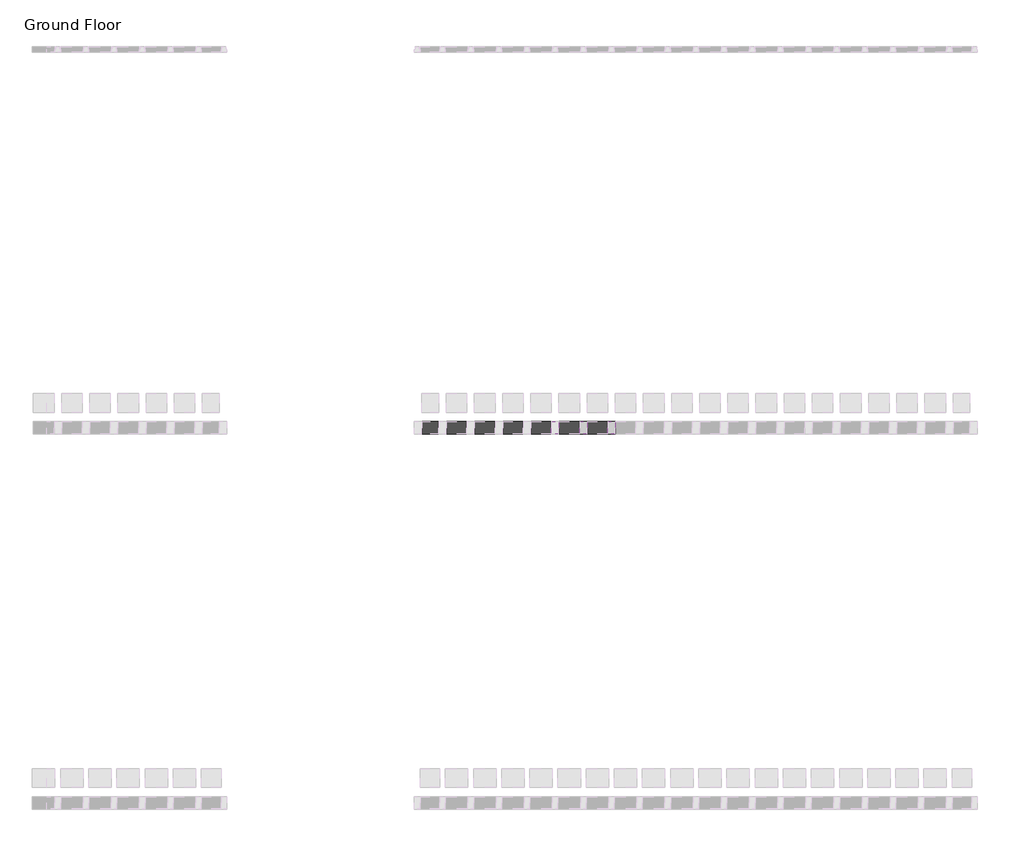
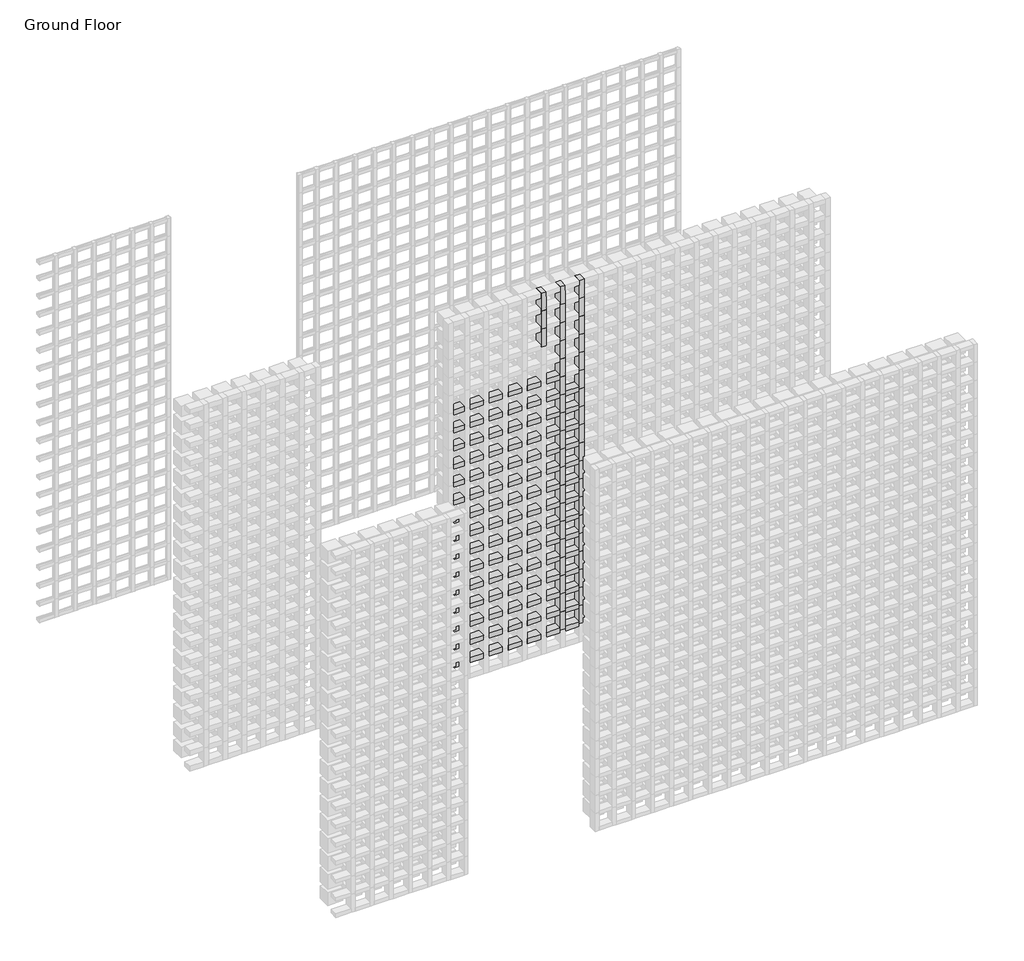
# One storey, part 96 of 350: 145 members.
"""IFC4 building model written with IfcOpenShell, lengths in millimetres."""

from ifc_helpers import new_model, si_unit, origin, place, context, project, spatial, transform, mapped, element, save
from components import rectangular_mullion_d93f5598, rectangular_mullion_655930e9, rectangular_mullion_0b6a8654

model = new_model("IFC4")

# Units and contexts
model_context = context("Model", 3, world=origin())
ifc_project = project(units=[si_unit("LENGTHUNIT", "METRE", prefix="MILLI")], contexts=[model_context])

# Site, building, storey
site = spatial("IfcSite", under=ifc_project)
building = spatial("IfcBuilding", under=site)
storey = spatial("IfcBuildingStorey", under=building, Name="Ground Floor", Elevation=0.0)

# Members
placement = place(None, origin())
rectangular_mullion_shape = rectangular_mullion_d93f5598(model_context)
element("IfcMember", 1, ObjectType="Rectangular Mullion : Batten_Timber_Modinex_Austratus_Grid_Fascia_40x65_Blackbutt", at=placement, inside=storey, context=model_context, shape_type="MappedRepresentation", body=[
    mapped(rectangular_mullion_shape, transform((6196.4361642, 40968.2978302, 150.0), x_axis=(0.0, 0.0, 1.0), y_axis=(0.0, -1.0, 0.0), z_axis=(1.0, 0.0, 0.0))),
])
element("IfcMember", 2, ObjectType="Rectangular Mullion : Batten_Timber_Modinex_Austratus_Grid_Fascia_40x65_Blackbutt", at=placement, inside=storey, context=model_context, shape_type="MappedRepresentation", body=[
    mapped(rectangular_mullion_shape, transform((6346.4361642, 40968.2978302, 150.0), x_axis=(0.0, 0.0, 1.0), y_axis=(0.0, -1.0, 0.0), z_axis=(1.0, 0.0, 0.0))),
])
element("IfcMember", 3, ObjectType="Rectangular Mullion : Batten_Timber_Modinex_Austratus_Grid_Fascia_40x65_Blackbutt", at=placement, inside=storey, context=model_context, shape_type="MappedRepresentation", body=[
    mapped(rectangular_mullion_shape, transform((6496.4361642, 40968.2978302, 150.0), x_axis=(0.0, 0.0, 1.0), y_axis=(0.0, -1.0, 0.0), z_axis=(1.0, 0.0, 0.0))),
])
element("IfcMember", 4, ObjectType="Rectangular Mullion : Batten_Timber_Modinex_Austratus_Grid_Fascia_40x65_Blackbutt", at=placement, inside=storey, context=model_context, shape_type="MappedRepresentation", body=[
    mapped(rectangular_mullion_shape, transform((6646.4361642, 40968.2978302, 150.0), x_axis=(0.0, 0.0, 1.0), y_axis=(0.0, -1.0, 0.0), z_axis=(1.0, 0.0, 0.0))),
])
element("IfcMember", 5, ObjectType="Rectangular Mullion : Batten_Timber_Modinex_Austratus_Grid_Fascia_40x65_Blackbutt", at=placement, inside=storey, context=model_context, shape_type="MappedRepresentation", body=[
    mapped(rectangular_mullion_shape, transform((6796.4361642, 40968.2978302, 150.0), x_axis=(0.0, 0.0, 1.0), y_axis=(0.0, -1.0, 0.0), z_axis=(1.0, 0.0, 0.0))),
])
element("IfcMember", 6, ObjectType="Rectangular Mullion : Batten_Timber_Modinex_Austratus_Grid_Fascia_40x65_Blackbutt", at=placement, inside=storey, context=model_context, shape_type="MappedRepresentation", body=[
    mapped(rectangular_mullion_shape, transform((6946.4361642, 40968.2978302, 150.0), x_axis=(0.0, 0.0, 1.0), y_axis=(0.0, -1.0, 0.0), z_axis=(1.0, 0.0, 0.0))),
])
element("IfcMember", 7, ObjectType="Rectangular Mullion : Batten_Timber_Modinex_Austratus_Grid_Fascia_40x65_Blackbutt", at=placement, inside=storey, context=model_context, shape_type="MappedRepresentation", body=[
    mapped(rectangular_mullion_shape, transform((6196.4361642, 40968.2978302, 300.0), x_axis=(0.0, 0.0, 1.0), y_axis=(0.0, -1.0, 0.0), z_axis=(1.0, 0.0, 0.0))),
])
element("IfcMember", 8, ObjectType="Rectangular Mullion : Batten_Timber_Modinex_Austratus_Grid_Fascia_40x65_Blackbutt", at=placement, inside=storey, context=model_context, shape_type="MappedRepresentation", body=[
    mapped(rectangular_mullion_shape, transform((6346.4361642, 40968.2978302, 300.0), x_axis=(0.0, 0.0, 1.0), y_axis=(0.0, -1.0, 0.0), z_axis=(1.0, 0.0, 0.0))),
])
element("IfcMember", 9, ObjectType="Rectangular Mullion : Batten_Timber_Modinex_Austratus_Grid_Fascia_40x65_Blackbutt", at=placement, inside=storey, context=model_context, shape_type="MappedRepresentation", body=[
    mapped(rectangular_mullion_shape, transform((6496.4361642, 40968.2978302, 300.0), x_axis=(0.0, 0.0, 1.0), y_axis=(0.0, -1.0, 0.0), z_axis=(1.0, 0.0, 0.0))),
])
element("IfcMember", 10, ObjectType="Rectangular Mullion : Batten_Timber_Modinex_Austratus_Grid_Fascia_40x65_Blackbutt", at=placement, inside=storey, context=model_context, shape_type="MappedRepresentation", body=[
    mapped(rectangular_mullion_shape, transform((6646.4361642, 40968.2978302, 300.0), x_axis=(0.0, 0.0, 1.0), y_axis=(0.0, -1.0, 0.0), z_axis=(1.0, 0.0, 0.0))),
])
element("IfcMember", 11, ObjectType="Rectangular Mullion : Batten_Timber_Modinex_Austratus_Grid_Fascia_40x65_Blackbutt", at=placement, inside=storey, context=model_context, shape_type="MappedRepresentation", body=[
    mapped(rectangular_mullion_shape, transform((6796.4361642, 40968.2978302, 300.0), x_axis=(0.0, 0.0, 1.0), y_axis=(0.0, -1.0, 0.0), z_axis=(1.0, 0.0, 0.0))),
])
element("IfcMember", 12, ObjectType="Rectangular Mullion : Batten_Timber_Modinex_Austratus_Grid_Fascia_40x65_Blackbutt", at=placement, inside=storey, context=model_context, shape_type="MappedRepresentation", body=[
    mapped(rectangular_mullion_shape, transform((6946.4361642, 40968.2978302, 300.0), x_axis=(0.0, 0.0, 1.0), y_axis=(0.0, -1.0, 0.0), z_axis=(1.0, 0.0, 0.0))),
])
element("IfcMember", 13, ObjectType="Rectangular Mullion : Batten_Timber_Modinex_Austratus_Grid_Fascia_40x65_Blackbutt", at=placement, inside=storey, context=model_context, shape_type="MappedRepresentation", body=[
    mapped(rectangular_mullion_shape, transform((6196.4361642, 40968.2978302, 450.0), x_axis=(0.0, 0.0, 1.0), y_axis=(0.0, -1.0, 0.0), z_axis=(1.0, 0.0, 0.0))),
])
element("IfcMember", 14, ObjectType="Rectangular Mullion : Batten_Timber_Modinex_Austratus_Grid_Fascia_40x65_Blackbutt", at=placement, inside=storey, context=model_context, shape_type="MappedRepresentation", body=[
    mapped(rectangular_mullion_shape, transform((6346.4361642, 40968.2978302, 450.0), x_axis=(0.0, 0.0, 1.0), y_axis=(0.0, -1.0, 0.0), z_axis=(1.0, 0.0, 0.0))),
])
element("IfcMember", 15, ObjectType="Rectangular Mullion : Batten_Timber_Modinex_Austratus_Grid_Fascia_40x65_Blackbutt", at=placement, inside=storey, context=model_context, shape_type="MappedRepresentation", body=[
    mapped(rectangular_mullion_shape, transform((6496.4361642, 40968.2978302, 450.0), x_axis=(0.0, 0.0, 1.0), y_axis=(0.0, -1.0, 0.0), z_axis=(1.0, 0.0, 0.0))),
])
element("IfcMember", 16, ObjectType="Rectangular Mullion : Batten_Timber_Modinex_Austratus_Grid_Fascia_40x65_Blackbutt", at=placement, inside=storey, context=model_context, shape_type="MappedRepresentation", body=[
    mapped(rectangular_mullion_shape, transform((6646.4361642, 40968.2978302, 450.0), x_axis=(0.0, 0.0, 1.0), y_axis=(0.0, -1.0, 0.0), z_axis=(1.0, 0.0, 0.0))),
])
element("IfcMember", 17, ObjectType="Rectangular Mullion : Batten_Timber_Modinex_Austratus_Grid_Fascia_40x65_Blackbutt", at=placement, inside=storey, context=model_context, shape_type="MappedRepresentation", body=[
    mapped(rectangular_mullion_shape, transform((6796.4361642, 40968.2978302, 450.0), x_axis=(0.0, 0.0, 1.0), y_axis=(0.0, -1.0, 0.0), z_axis=(1.0, 0.0, 0.0))),
])
element("IfcMember", 18, ObjectType="Rectangular Mullion : Batten_Timber_Modinex_Austratus_Grid_Fascia_40x65_Blackbutt", at=placement, inside=storey, context=model_context, shape_type="MappedRepresentation", body=[
    mapped(rectangular_mullion_shape, transform((6946.4361642, 40968.2978302, 450.0), x_axis=(0.0, 0.0, 1.0), y_axis=(0.0, -1.0, 0.0), z_axis=(1.0, 0.0, 0.0))),
])
element("IfcMember", 19, ObjectType="Rectangular Mullion : Batten_Timber_Modinex_Austratus_Grid_Fascia_40x65_Blackbutt", at=placement, inside=storey, context=model_context, shape_type="MappedRepresentation", body=[
    mapped(rectangular_mullion_shape, transform((6196.4361642, 40968.2978302, 600.0), x_axis=(0.0, 0.0, 1.0), y_axis=(0.0, -1.0, 0.0), z_axis=(1.0, 0.0, 0.0))),
])
element("IfcMember", 20, ObjectType="Rectangular Mullion : Batten_Timber_Modinex_Austratus_Grid_Fascia_40x65_Blackbutt", at=placement, inside=storey, context=model_context, shape_type="MappedRepresentation", body=[
    mapped(rectangular_mullion_shape, transform((6346.4361642, 40968.2978302, 600.0), x_axis=(0.0, 0.0, 1.0), y_axis=(0.0, -1.0, 0.0), z_axis=(1.0, 0.0, 0.0))),
])
element("IfcMember", 21, ObjectType="Rectangular Mullion : Batten_Timber_Modinex_Austratus_Grid_Fascia_40x65_Blackbutt", at=placement, inside=storey, context=model_context, shape_type="MappedRepresentation", body=[
    mapped(rectangular_mullion_shape, transform((6496.4361642, 40968.2978302, 600.0), x_axis=(0.0, 0.0, 1.0), y_axis=(0.0, -1.0, 0.0), z_axis=(1.0, 0.0, 0.0))),
])
element("IfcMember", 22, ObjectType="Rectangular Mullion : Batten_Timber_Modinex_Austratus_Grid_Fascia_40x65_Blackbutt", at=placement, inside=storey, context=model_context, shape_type="MappedRepresentation", body=[
    mapped(rectangular_mullion_shape, transform((6646.4361642, 40968.2978302, 600.0), x_axis=(0.0, 0.0, 1.0), y_axis=(0.0, -1.0, 0.0), z_axis=(1.0, 0.0, 0.0))),
])
element("IfcMember", 23, ObjectType="Rectangular Mullion : Batten_Timber_Modinex_Austratus_Grid_Fascia_40x65_Blackbutt", at=placement, inside=storey, context=model_context, shape_type="MappedRepresentation", body=[
    mapped(rectangular_mullion_shape, transform((6796.4361642, 40968.2978302, 600.0), x_axis=(0.0, 0.0, 1.0), y_axis=(0.0, -1.0, 0.0), z_axis=(1.0, 0.0, 0.0))),
])
element("IfcMember", 24, ObjectType="Rectangular Mullion : Batten_Timber_Modinex_Austratus_Grid_Fascia_40x65_Blackbutt", at=placement, inside=storey, context=model_context, shape_type="MappedRepresentation", body=[
    mapped(rectangular_mullion_shape, transform((6946.4361642, 40968.2978302, 600.0), x_axis=(0.0, 0.0, 1.0), y_axis=(0.0, -1.0, 0.0), z_axis=(1.0, 0.0, 0.0))),
])
element("IfcMember", 25, ObjectType="Rectangular Mullion : Batten_Timber_Modinex_Austratus_Grid_Fascia_40x65_Blackbutt", at=placement, inside=storey, context=model_context, shape_type="MappedRepresentation", body=[
    mapped(rectangular_mullion_shape, transform((6196.4361642, 40968.2978302, 750.0), x_axis=(0.0, 0.0, 1.0), y_axis=(0.0, -1.0, 0.0), z_axis=(1.0, 0.0, 0.0))),
])
element("IfcMember", 26, ObjectType="Rectangular Mullion : Batten_Timber_Modinex_Austratus_Grid_Fascia_40x65_Blackbutt", at=placement, inside=storey, context=model_context, shape_type="MappedRepresentation", body=[
    mapped(rectangular_mullion_shape, transform((6346.4361642, 40968.2978302, 750.0), x_axis=(0.0, 0.0, 1.0), y_axis=(0.0, -1.0, 0.0), z_axis=(1.0, 0.0, 0.0))),
])
element("IfcMember", 27, ObjectType="Rectangular Mullion : Batten_Timber_Modinex_Austratus_Grid_Fascia_40x65_Blackbutt", at=placement, inside=storey, context=model_context, shape_type="MappedRepresentation", body=[
    mapped(rectangular_mullion_shape, transform((6496.4361642, 40968.2978302, 750.0), x_axis=(0.0, 0.0, 1.0), y_axis=(0.0, -1.0, 0.0), z_axis=(1.0, 0.0, 0.0))),
])
element("IfcMember", 28, ObjectType="Rectangular Mullion : Batten_Timber_Modinex_Austratus_Grid_Fascia_40x65_Blackbutt", at=placement, inside=storey, context=model_context, shape_type="MappedRepresentation", body=[
    mapped(rectangular_mullion_shape, transform((6646.4361642, 40968.2978302, 750.0), x_axis=(0.0, 0.0, 1.0), y_axis=(0.0, -1.0, 0.0), z_axis=(1.0, 0.0, 0.0))),
])
element("IfcMember", 29, ObjectType="Rectangular Mullion : Batten_Timber_Modinex_Austratus_Grid_Fascia_40x65_Blackbutt", at=placement, inside=storey, context=model_context, shape_type="MappedRepresentation", body=[
    mapped(rectangular_mullion_shape, transform((6796.4361642, 40968.2978302, 750.0), x_axis=(0.0, 0.0, 1.0), y_axis=(0.0, -1.0, 0.0), z_axis=(1.0, 0.0, 0.0))),
])
element("IfcMember", 30, ObjectType="Rectangular Mullion : Batten_Timber_Modinex_Austratus_Grid_Fascia_40x65_Blackbutt", at=placement, inside=storey, context=model_context, shape_type="MappedRepresentation", body=[
    mapped(rectangular_mullion_shape, transform((6946.4361642, 40968.2978302, 750.0), x_axis=(0.0, 0.0, 1.0), y_axis=(0.0, -1.0, 0.0), z_axis=(1.0, 0.0, 0.0))),
])
element("IfcMember", 31, ObjectType="Rectangular Mullion : Batten_Timber_Modinex_Austratus_Grid_Fascia_40x65_Blackbutt", at=placement, inside=storey, context=model_context, shape_type="MappedRepresentation", body=[
    mapped(rectangular_mullion_shape, transform((6196.4361642, 40968.2978302, 900.0), x_axis=(0.0, 0.0, 1.0), y_axis=(0.0, -1.0, 0.0), z_axis=(1.0, 0.0, 0.0))),
])
element("IfcMember", 32, ObjectType="Rectangular Mullion : Batten_Timber_Modinex_Austratus_Grid_Fascia_40x65_Blackbutt", at=placement, inside=storey, context=model_context, shape_type="MappedRepresentation", body=[
    mapped(rectangular_mullion_shape, transform((6346.4361642, 40968.2978302, 900.0), x_axis=(0.0, 0.0, 1.0), y_axis=(0.0, -1.0, 0.0), z_axis=(1.0, 0.0, 0.0))),
])
element("IfcMember", 33, ObjectType="Rectangular Mullion : Batten_Timber_Modinex_Austratus_Grid_Fascia_40x65_Blackbutt", at=placement, inside=storey, context=model_context, shape_type="MappedRepresentation", body=[
    mapped(rectangular_mullion_shape, transform((6496.4361642, 40968.2978302, 900.0), x_axis=(0.0, 0.0, 1.0), y_axis=(0.0, -1.0, 0.0), z_axis=(1.0, 0.0, 0.0))),
])
element("IfcMember", 34, ObjectType="Rectangular Mullion : Batten_Timber_Modinex_Austratus_Grid_Fascia_40x65_Blackbutt", at=placement, inside=storey, context=model_context, shape_type="MappedRepresentation", body=[
    mapped(rectangular_mullion_shape, transform((6646.4361642, 40968.2978302, 900.0), x_axis=(0.0, 0.0, 1.0), y_axis=(0.0, -1.0, 0.0), z_axis=(1.0, 0.0, 0.0))),
])
element("IfcMember", 35, ObjectType="Rectangular Mullion : Batten_Timber_Modinex_Austratus_Grid_Fascia_40x65_Blackbutt", at=placement, inside=storey, context=model_context, shape_type="MappedRepresentation", body=[
    mapped(rectangular_mullion_shape, transform((6796.4361642, 40968.2978302, 900.0), x_axis=(0.0, 0.0, 1.0), y_axis=(0.0, -1.0, 0.0), z_axis=(1.0, 0.0, 0.0))),
])
element("IfcMember", 36, ObjectType="Rectangular Mullion : Batten_Timber_Modinex_Austratus_Grid_Fascia_40x65_Blackbutt", at=placement, inside=storey, context=model_context, shape_type="MappedRepresentation", body=[
    mapped(rectangular_mullion_shape, transform((6946.4361642, 40968.2978302, 900.0), x_axis=(0.0, 0.0, 1.0), y_axis=(0.0, -1.0, 0.0), z_axis=(1.0, 0.0, 0.0))),
])
element("IfcMember", 37, ObjectType="Rectangular Mullion : Batten_Timber_Modinex_Austratus_Grid_Fascia_40x65_Blackbutt", at=placement, inside=storey, context=model_context, shape_type="MappedRepresentation", body=[
    mapped(rectangular_mullion_shape, transform((6196.4361642, 40968.2978302, 1050.0), x_axis=(0.0, 0.0, 1.0), y_axis=(0.0, -1.0, 0.0), z_axis=(1.0, 0.0, 0.0))),
])
element("IfcMember", 38, ObjectType="Rectangular Mullion : Batten_Timber_Modinex_Austratus_Grid_Fascia_40x65_Blackbutt", at=placement, inside=storey, context=model_context, shape_type="MappedRepresentation", body=[
    mapped(rectangular_mullion_shape, transform((6346.4361642, 40968.2978302, 1050.0), x_axis=(0.0, 0.0, 1.0), y_axis=(0.0, -1.0, 0.0), z_axis=(1.0, 0.0, 0.0))),
])
element("IfcMember", 39, ObjectType="Rectangular Mullion : Batten_Timber_Modinex_Austratus_Grid_Fascia_40x65_Blackbutt", at=placement, inside=storey, context=model_context, shape_type="MappedRepresentation", body=[
    mapped(rectangular_mullion_shape, transform((6496.4361642, 40968.2978302, 1050.0), x_axis=(0.0, 0.0, 1.0), y_axis=(0.0, -1.0, 0.0), z_axis=(1.0, 0.0, 0.0))),
])
element("IfcMember", 40, ObjectType="Rectangular Mullion : Batten_Timber_Modinex_Austratus_Grid_Fascia_40x65_Blackbutt", at=placement, inside=storey, context=model_context, shape_type="MappedRepresentation", body=[
    mapped(rectangular_mullion_shape, transform((6646.4361642, 40968.2978302, 1050.0), x_axis=(0.0, 0.0, 1.0), y_axis=(0.0, -1.0, 0.0), z_axis=(1.0, 0.0, 0.0))),
])
element("IfcMember", 41, ObjectType="Rectangular Mullion : Batten_Timber_Modinex_Austratus_Grid_Fascia_40x65_Blackbutt", at=placement, inside=storey, context=model_context, shape_type="MappedRepresentation", body=[
    mapped(rectangular_mullion_shape, transform((6796.4361642, 40968.2978302, 1050.0), x_axis=(0.0, 0.0, 1.0), y_axis=(0.0, -1.0, 0.0), z_axis=(1.0, 0.0, 0.0))),
])
element("IfcMember", 42, ObjectType="Rectangular Mullion : Batten_Timber_Modinex_Austratus_Grid_Fascia_40x65_Blackbutt", at=placement, inside=storey, context=model_context, shape_type="MappedRepresentation", body=[
    mapped(rectangular_mullion_shape, transform((6946.4361642, 40968.2978302, 1050.0), x_axis=(0.0, 0.0, 1.0), y_axis=(0.0, -1.0, 0.0), z_axis=(1.0, 0.0, 0.0))),
])
element("IfcMember", 43, ObjectType="Rectangular Mullion : Batten_Timber_Modinex_Austratus_Grid_Fascia_40x65_Blackbutt", at=placement, inside=storey, context=model_context, shape_type="MappedRepresentation", body=[
    mapped(rectangular_mullion_shape, transform((6196.4361642, 40968.2978302, 1200.0), x_axis=(0.0, 0.0, 1.0), y_axis=(0.0, -1.0, 0.0), z_axis=(1.0, 0.0, 0.0))),
])
element("IfcMember", 44, ObjectType="Rectangular Mullion : Batten_Timber_Modinex_Austratus_Grid_Fascia_40x65_Blackbutt", at=placement, inside=storey, context=model_context, shape_type="MappedRepresentation", body=[
    mapped(rectangular_mullion_shape, transform((6346.4361642, 40968.2978302, 1200.0), x_axis=(0.0, 0.0, 1.0), y_axis=(0.0, -1.0, 0.0), z_axis=(1.0, 0.0, 0.0))),
])
element("IfcMember", 45, ObjectType="Rectangular Mullion : Batten_Timber_Modinex_Austratus_Grid_Fascia_40x65_Blackbutt", at=placement, inside=storey, context=model_context, shape_type="MappedRepresentation", body=[
    mapped(rectangular_mullion_shape, transform((6496.4361642, 40968.2978302, 1200.0), x_axis=(0.0, 0.0, 1.0), y_axis=(0.0, -1.0, 0.0), z_axis=(1.0, 0.0, 0.0))),
])
element("IfcMember", 46, ObjectType="Rectangular Mullion : Batten_Timber_Modinex_Austratus_Grid_Fascia_40x65_Blackbutt", at=placement, inside=storey, context=model_context, shape_type="MappedRepresentation", body=[
    mapped(rectangular_mullion_shape, transform((6646.4361642, 40968.2978302, 1200.0), x_axis=(0.0, 0.0, 1.0), y_axis=(0.0, -1.0, 0.0), z_axis=(1.0, 0.0, 0.0))),
])
element("IfcMember", 47, ObjectType="Rectangular Mullion : Batten_Timber_Modinex_Austratus_Grid_Fascia_40x65_Blackbutt", at=placement, inside=storey, context=model_context, shape_type="MappedRepresentation", body=[
    mapped(rectangular_mullion_shape, transform((6796.4361642, 40968.2978302, 1200.0), x_axis=(0.0, 0.0, 1.0), y_axis=(0.0, -1.0, 0.0), z_axis=(1.0, 0.0, 0.0))),
])
element("IfcMember", 48, ObjectType="Rectangular Mullion : Batten_Timber_Modinex_Austratus_Grid_Fascia_40x65_Blackbutt", at=placement, inside=storey, context=model_context, shape_type="MappedRepresentation", body=[
    mapped(rectangular_mullion_shape, transform((6946.4361642, 40968.2978302, 1200.0), x_axis=(0.0, 0.0, 1.0), y_axis=(0.0, -1.0, 0.0), z_axis=(1.0, 0.0, 0.0))),
])
element("IfcMember", 49, ObjectType="Rectangular Mullion : Batten_Timber_Modinex_Austratus_Grid_Fascia_40x65_Blackbutt", at=placement, inside=storey, context=model_context, shape_type="MappedRepresentation", body=[
    mapped(rectangular_mullion_shape, transform((6196.4361642, 40968.2978302, 1350.0), x_axis=(0.0, 0.0, 1.0), y_axis=(0.0, -1.0, 0.0), z_axis=(1.0, 0.0, 0.0))),
])
element("IfcMember", 50, ObjectType="Rectangular Mullion : Batten_Timber_Modinex_Austratus_Grid_Fascia_40x65_Blackbutt", at=placement, inside=storey, context=model_context, shape_type="MappedRepresentation", body=[
    mapped(rectangular_mullion_shape, transform((6346.4361642, 40968.2978302, 1350.0), x_axis=(0.0, 0.0, 1.0), y_axis=(0.0, -1.0, 0.0), z_axis=(1.0, 0.0, 0.0))),
])
element("IfcMember", 51, ObjectType="Rectangular Mullion : Batten_Timber_Modinex_Austratus_Grid_Fascia_40x65_Blackbutt", at=placement, inside=storey, context=model_context, shape_type="MappedRepresentation", body=[
    mapped(rectangular_mullion_shape, transform((6496.4361642, 40968.2978302, 1350.0), x_axis=(0.0, 0.0, 1.0), y_axis=(0.0, -1.0, 0.0), z_axis=(1.0, 0.0, 0.0))),
])
element("IfcMember", 52, ObjectType="Rectangular Mullion : Batten_Timber_Modinex_Austratus_Grid_Fascia_40x65_Blackbutt", at=placement, inside=storey, context=model_context, shape_type="MappedRepresentation", body=[
    mapped(rectangular_mullion_shape, transform((6646.4361642, 40968.2978302, 1350.0), x_axis=(0.0, 0.0, 1.0), y_axis=(0.0, -1.0, 0.0), z_axis=(1.0, 0.0, 0.0))),
])
element("IfcMember", 53, ObjectType="Rectangular Mullion : Batten_Timber_Modinex_Austratus_Grid_Fascia_40x65_Blackbutt", at=placement, inside=storey, context=model_context, shape_type="MappedRepresentation", body=[
    mapped(rectangular_mullion_shape, transform((6796.4361642, 40968.2978302, 1350.0), x_axis=(0.0, 0.0, 1.0), y_axis=(0.0, -1.0, 0.0), z_axis=(1.0, 0.0, 0.0))),
])
element("IfcMember", 54, ObjectType="Rectangular Mullion : Batten_Timber_Modinex_Austratus_Grid_Fascia_40x65_Blackbutt", at=placement, inside=storey, context=model_context, shape_type="MappedRepresentation", body=[
    mapped(rectangular_mullion_shape, transform((6946.4361642, 40968.2978302, 1350.0), x_axis=(0.0, 0.0, 1.0), y_axis=(0.0, -1.0, 0.0), z_axis=(1.0, 0.0, 0.0))),
])
element("IfcMember", 55, ObjectType="Rectangular Mullion : Batten_Timber_Modinex_Austratus_Grid_Fascia_40x65_Blackbutt", at=placement, inside=storey, context=model_context, shape_type="MappedRepresentation", body=[
    mapped(rectangular_mullion_shape, transform((6196.4361642, 40968.2978302, 1500.0), x_axis=(0.0, 0.0, 1.0), y_axis=(0.0, -1.0, 0.0), z_axis=(1.0, 0.0, 0.0))),
])
element("IfcMember", 56, ObjectType="Rectangular Mullion : Batten_Timber_Modinex_Austratus_Grid_Fascia_40x65_Blackbutt", at=placement, inside=storey, context=model_context, shape_type="MappedRepresentation", body=[
    mapped(rectangular_mullion_shape, transform((6346.4361642, 40968.2978302, 1500.0), x_axis=(0.0, 0.0, 1.0), y_axis=(0.0, -1.0, 0.0), z_axis=(1.0, 0.0, 0.0))),
])
element("IfcMember", 57, ObjectType="Rectangular Mullion : Batten_Timber_Modinex_Austratus_Grid_Fascia_40x65_Blackbutt", at=placement, inside=storey, context=model_context, shape_type="MappedRepresentation", body=[
    mapped(rectangular_mullion_shape, transform((6496.4361642, 40968.2978302, 1500.0), x_axis=(0.0, 0.0, 1.0), y_axis=(0.0, -1.0, 0.0), z_axis=(1.0, 0.0, 0.0))),
])
element("IfcMember", 58, ObjectType="Rectangular Mullion : Batten_Timber_Modinex_Austratus_Grid_Fascia_40x65_Blackbutt", at=placement, inside=storey, context=model_context, shape_type="MappedRepresentation", body=[
    mapped(rectangular_mullion_shape, transform((6646.4361642, 40968.2978302, 1500.0), x_axis=(0.0, 0.0, 1.0), y_axis=(0.0, -1.0, 0.0), z_axis=(1.0, 0.0, 0.0))),
])
element("IfcMember", 59, ObjectType="Rectangular Mullion : Batten_Timber_Modinex_Austratus_Grid_Fascia_40x65_Blackbutt", at=placement, inside=storey, context=model_context, shape_type="MappedRepresentation", body=[
    mapped(rectangular_mullion_shape, transform((6796.4361642, 40968.2978302, 1500.0), x_axis=(0.0, 0.0, 1.0), y_axis=(0.0, -1.0, 0.0), z_axis=(1.0, 0.0, 0.0))),
])
element("IfcMember", 60, ObjectType="Rectangular Mullion : Batten_Timber_Modinex_Austratus_Grid_Fascia_40x65_Blackbutt", at=placement, inside=storey, context=model_context, shape_type="MappedRepresentation", body=[
    mapped(rectangular_mullion_shape, transform((6946.4361642, 40968.2978302, 1500.0), x_axis=(0.0, 0.0, 1.0), y_axis=(0.0, -1.0, 0.0), z_axis=(1.0, 0.0, 0.0))),
])
element("IfcMember", 61, ObjectType="Rectangular Mullion : Batten_Timber_Modinex_Austratus_Grid_Fascia_40x65_Blackbutt", at=placement, inside=storey, context=model_context, shape_type="MappedRepresentation", body=[
    mapped(rectangular_mullion_shape, transform((6196.4361642, 40968.2978302, 1650.0), x_axis=(0.0, 0.0, 1.0), y_axis=(0.0, -1.0, 0.0), z_axis=(1.0, 0.0, 0.0))),
])
element("IfcMember", 62, ObjectType="Rectangular Mullion : Batten_Timber_Modinex_Austratus_Grid_Fascia_40x65_Blackbutt", at=placement, inside=storey, context=model_context, shape_type="MappedRepresentation", body=[
    mapped(rectangular_mullion_shape, transform((6346.4361642, 40968.2978302, 1650.0), x_axis=(0.0, 0.0, 1.0), y_axis=(0.0, -1.0, 0.0), z_axis=(1.0, 0.0, 0.0))),
])
element("IfcMember", 63, ObjectType="Rectangular Mullion : Batten_Timber_Modinex_Austratus_Grid_Fascia_40x65_Blackbutt", at=placement, inside=storey, context=model_context, shape_type="MappedRepresentation", body=[
    mapped(rectangular_mullion_shape, transform((6496.4361642, 40968.2978302, 1650.0), x_axis=(0.0, 0.0, 1.0), y_axis=(0.0, -1.0, 0.0), z_axis=(1.0, 0.0, 0.0))),
])
element("IfcMember", 64, ObjectType="Rectangular Mullion : Batten_Timber_Modinex_Austratus_Grid_Fascia_40x65_Blackbutt", at=placement, inside=storey, context=model_context, shape_type="MappedRepresentation", body=[
    mapped(rectangular_mullion_shape, transform((6646.4361642, 40968.2978302, 1650.0), x_axis=(0.0, 0.0, 1.0), y_axis=(0.0, -1.0, 0.0), z_axis=(1.0, 0.0, 0.0))),
])
element("IfcMember", 65, ObjectType="Rectangular Mullion : Batten_Timber_Modinex_Austratus_Grid_Fascia_40x65_Blackbutt", at=placement, inside=storey, context=model_context, shape_type="MappedRepresentation", body=[
    mapped(rectangular_mullion_shape, transform((6796.4361642, 40968.2978302, 1650.0), x_axis=(0.0, 0.0, 1.0), y_axis=(0.0, -1.0, 0.0), z_axis=(1.0, 0.0, 0.0))),
])
element("IfcMember", 66, ObjectType="Rectangular Mullion : Batten_Timber_Modinex_Austratus_Grid_Fascia_40x65_Blackbutt", at=placement, inside=storey, context=model_context, shape_type="MappedRepresentation", body=[
    mapped(rectangular_mullion_shape, transform((6946.4361642, 40968.2978302, 1650.0), x_axis=(0.0, 0.0, 1.0), y_axis=(0.0, -1.0, 0.0), z_axis=(1.0, 0.0, 0.0))),
])
element("IfcMember", 67, ObjectType="Rectangular Mullion : Batten_Timber_Modinex_Austratus_Grid_Fascia_40x65_Blackbutt", at=placement, inside=storey, context=model_context, shape_type="MappedRepresentation", body=[
    mapped(rectangular_mullion_shape, transform((6196.4361642, 40968.2978302, 1800.0), x_axis=(0.0, 0.0, 1.0), y_axis=(0.0, -1.0, 0.0), z_axis=(1.0, 0.0, 0.0))),
])
element("IfcMember", 68, ObjectType="Rectangular Mullion : Batten_Timber_Modinex_Austratus_Grid_Fascia_40x65_Blackbutt", at=placement, inside=storey, context=model_context, shape_type="MappedRepresentation", body=[
    mapped(rectangular_mullion_shape, transform((6346.4361642, 40968.2978302, 1800.0), x_axis=(0.0, 0.0, 1.0), y_axis=(0.0, -1.0, 0.0), z_axis=(1.0, 0.0, 0.0))),
])
element("IfcMember", 69, ObjectType="Rectangular Mullion : Batten_Timber_Modinex_Austratus_Grid_Fascia_40x65_Blackbutt", at=placement, inside=storey, context=model_context, shape_type="MappedRepresentation", body=[
    mapped(rectangular_mullion_shape, transform((6496.4361642, 40968.2978302, 1800.0), x_axis=(0.0, 0.0, 1.0), y_axis=(0.0, -1.0, 0.0), z_axis=(1.0, 0.0, 0.0))),
])
element("IfcMember", 70, ObjectType="Rectangular Mullion : Batten_Timber_Modinex_Austratus_Grid_Fascia_40x65_Blackbutt", at=placement, inside=storey, context=model_context, shape_type="MappedRepresentation", body=[
    mapped(rectangular_mullion_shape, transform((6646.4361642, 40968.2978302, 1800.0), x_axis=(0.0, 0.0, 1.0), y_axis=(0.0, -1.0, 0.0), z_axis=(1.0, 0.0, 0.0))),
])
element("IfcMember", 71, ObjectType="Rectangular Mullion : Batten_Timber_Modinex_Austratus_Grid_Fascia_40x65_Blackbutt", at=placement, inside=storey, context=model_context, shape_type="MappedRepresentation", body=[
    mapped(rectangular_mullion_shape, transform((6796.4361642, 40968.2978302, 1800.0), x_axis=(0.0, 0.0, 1.0), y_axis=(0.0, -1.0, 0.0), z_axis=(1.0, 0.0, 0.0))),
])
element("IfcMember", 72, ObjectType="Rectangular Mullion : Batten_Timber_Modinex_Austratus_Grid_Fascia_40x65_Blackbutt", at=placement, inside=storey, context=model_context, shape_type="MappedRepresentation", body=[
    mapped(rectangular_mullion_shape, transform((6946.4361642, 40968.2978302, 1800.0), x_axis=(0.0, 0.0, 1.0), y_axis=(0.0, -1.0, 0.0), z_axis=(1.0, 0.0, 0.0))),
])
element("IfcMember", 73, ObjectType="Rectangular Mullion : Batten_Timber_Modinex_Austratus_Grid_Fascia_40x65_Blackbutt", at=placement, inside=storey, context=model_context, shape_type="MappedRepresentation", body=[
    mapped(rectangular_mullion_shape, transform((6196.4361642, 40968.2978302, 1950.0), x_axis=(0.0, 0.0, 1.0), y_axis=(0.0, -1.0, 0.0), z_axis=(1.0, 0.0, 0.0))),
])
element("IfcMember", 74, ObjectType="Rectangular Mullion : Batten_Timber_Modinex_Austratus_Grid_Fascia_40x65_Blackbutt", at=placement, inside=storey, context=model_context, shape_type="MappedRepresentation", body=[
    mapped(rectangular_mullion_shape, transform((6346.4361642, 40968.2978302, 1950.0), x_axis=(0.0, 0.0, 1.0), y_axis=(0.0, -1.0, 0.0), z_axis=(1.0, 0.0, 0.0))),
])
element("IfcMember", 75, ObjectType="Rectangular Mullion : Batten_Timber_Modinex_Austratus_Grid_Fascia_40x65_Blackbutt", at=placement, inside=storey, context=model_context, shape_type="MappedRepresentation", body=[
    mapped(rectangular_mullion_shape, transform((6496.4361642, 40968.2978302, 1950.0), x_axis=(0.0, 0.0, 1.0), y_axis=(0.0, -1.0, 0.0), z_axis=(1.0, 0.0, 0.0))),
])
element("IfcMember", 76, ObjectType="Rectangular Mullion : Batten_Timber_Modinex_Austratus_Grid_Fascia_40x65_Blackbutt", at=placement, inside=storey, context=model_context, shape_type="MappedRepresentation", body=[
    mapped(rectangular_mullion_shape, transform((6646.4361642, 40968.2978302, 1950.0), x_axis=(0.0, 0.0, 1.0), y_axis=(0.0, -1.0, 0.0), z_axis=(1.0, 0.0, 0.0))),
])
element("IfcMember", 77, ObjectType="Rectangular Mullion : Batten_Timber_Modinex_Austratus_Grid_Fascia_40x65_Blackbutt", at=placement, inside=storey, context=model_context, shape_type="MappedRepresentation", body=[
    mapped(rectangular_mullion_shape, transform((6796.4361642, 40968.2978302, 1950.0), x_axis=(0.0, 0.0, 1.0), y_axis=(0.0, -1.0, 0.0), z_axis=(1.0, 0.0, 0.0))),
])
element("IfcMember", 78, ObjectType="Rectangular Mullion : Batten_Timber_Modinex_Austratus_Grid_Fascia_40x65_Blackbutt", at=placement, inside=storey, context=model_context, shape_type="MappedRepresentation", body=[
    mapped(rectangular_mullion_shape, transform((6946.4361642, 40968.2978302, 1950.0), x_axis=(0.0, 0.0, 1.0), y_axis=(0.0, -1.0, 0.0), z_axis=(1.0, 0.0, 0.0))),
])
element("IfcMember", 79, ObjectType="Rectangular Mullion : Batten_Timber_Modinex_Austratus_Grid_Fascia_40x65_Blackbutt", at=placement, inside=storey, context=model_context, shape_type="MappedRepresentation", body=[
    mapped(rectangular_mullion_shape, transform((6196.4361642, 40968.2978302, 2100.0), x_axis=(0.0, 0.0, 1.0), y_axis=(0.0, -1.0, 0.0), z_axis=(1.0, 0.0, 0.0))),
])
element("IfcMember", 80, ObjectType="Rectangular Mullion : Batten_Timber_Modinex_Austratus_Grid_Fascia_40x65_Blackbutt", at=placement, inside=storey, context=model_context, shape_type="MappedRepresentation", body=[
    mapped(rectangular_mullion_shape, transform((6346.4361642, 40968.2978302, 2100.0), x_axis=(0.0, 0.0, 1.0), y_axis=(0.0, -1.0, 0.0), z_axis=(1.0, 0.0, 0.0))),
])
element("IfcMember", 81, ObjectType="Rectangular Mullion : Batten_Timber_Modinex_Austratus_Grid_Fascia_40x65_Blackbutt", at=placement, inside=storey, context=model_context, shape_type="MappedRepresentation", body=[
    mapped(rectangular_mullion_shape, transform((6496.4361642, 40968.2978302, 2100.0), x_axis=(0.0, 0.0, 1.0), y_axis=(0.0, -1.0, 0.0), z_axis=(1.0, 0.0, 0.0))),
])
element("IfcMember", 82, ObjectType="Rectangular Mullion : Batten_Timber_Modinex_Austratus_Grid_Fascia_40x65_Blackbutt", at=placement, inside=storey, context=model_context, shape_type="MappedRepresentation", body=[
    mapped(rectangular_mullion_shape, transform((6646.4361642, 40968.2978302, 2100.0), x_axis=(0.0, 0.0, 1.0), y_axis=(0.0, -1.0, 0.0), z_axis=(1.0, 0.0, 0.0))),
])
element("IfcMember", 83, ObjectType="Rectangular Mullion : Batten_Timber_Modinex_Austratus_Grid_Fascia_40x65_Blackbutt", at=placement, inside=storey, context=model_context, shape_type="MappedRepresentation", body=[
    mapped(rectangular_mullion_shape, transform((6796.4361642, 40968.2978302, 2100.0), x_axis=(0.0, 0.0, 1.0), y_axis=(0.0, -1.0, 0.0), z_axis=(1.0, 0.0, 0.0))),
])
element("IfcMember", 84, ObjectType="Rectangular Mullion : Batten_Timber_Modinex_Austratus_Grid_Fascia_40x65_Blackbutt", at=placement, inside=storey, context=model_context, shape_type="MappedRepresentation", body=[
    mapped(rectangular_mullion_shape, transform((6946.4361642, 40968.2978302, 2100.0), x_axis=(0.0, 0.0, 1.0), y_axis=(0.0, -1.0, 0.0), z_axis=(1.0, 0.0, 0.0))),
])
element("IfcMember", 85, ObjectType="Rectangular Mullion : Batten_Timber_Modinex_Austratus_Grid_Fascia_40x65_Blackbutt", at=placement, inside=storey, context=model_context, shape_type="MappedRepresentation", body=[
    mapped(rectangular_mullion_shape, transform((6196.4361642, 40968.2978302, 2250.0), x_axis=(0.0, 0.0, 1.0), y_axis=(0.0, -1.0, 0.0), z_axis=(1.0, 0.0, 0.0))),
])
element("IfcMember", 86, ObjectType="Rectangular Mullion : Batten_Timber_Modinex_Austratus_Grid_Fascia_40x65_Blackbutt", at=placement, inside=storey, context=model_context, shape_type="MappedRepresentation", body=[
    mapped(rectangular_mullion_shape, transform((6346.4361642, 40968.2978302, 2250.0), x_axis=(0.0, 0.0, 1.0), y_axis=(0.0, -1.0, 0.0), z_axis=(1.0, 0.0, 0.0))),
])
element("IfcMember", 87, ObjectType="Rectangular Mullion : Batten_Timber_Modinex_Austratus_Grid_Fascia_40x65_Blackbutt", at=placement, inside=storey, context=model_context, shape_type="MappedRepresentation", body=[
    mapped(rectangular_mullion_shape, transform((6496.4361642, 40968.2978302, 2250.0), x_axis=(0.0, 0.0, 1.0), y_axis=(0.0, -1.0, 0.0), z_axis=(1.0, 0.0, 0.0))),
])
element("IfcMember", 88, ObjectType="Rectangular Mullion : Batten_Timber_Modinex_Austratus_Grid_Fascia_40x65_Blackbutt", at=placement, inside=storey, context=model_context, shape_type="MappedRepresentation", body=[
    mapped(rectangular_mullion_shape, transform((6646.4361642, 40968.2978302, 2250.0), x_axis=(0.0, 0.0, 1.0), y_axis=(0.0, -1.0, 0.0), z_axis=(1.0, 0.0, 0.0))),
])
element("IfcMember", 89, ObjectType="Rectangular Mullion : Batten_Timber_Modinex_Austratus_Grid_Fascia_40x65_Blackbutt", at=placement, inside=storey, context=model_context, shape_type="MappedRepresentation", body=[
    mapped(rectangular_mullion_shape, transform((6796.4361642, 40968.2978302, 2250.0), x_axis=(0.0, 0.0, 1.0), y_axis=(0.0, -1.0, 0.0), z_axis=(1.0, 0.0, 0.0))),
])
rectangular_mullion_2_shape = rectangular_mullion_655930e9(model_context)
element("IfcMember", 90, ObjectType="Rectangular Mullion : Batten_Timber_Modinex_Austratus_Grid_Fascia_40x65_Blackbutt", at=placement, inside=storey, context=model_context, shape_type="MappedRepresentation", body=[
    mapped(rectangular_mullion_2_shape, transform((6666.4361642, 40968.2978302, 2550.0), x_axis=(1.0, 0.0, 0.0), y_axis=(0.0, -1.0, 0.0), z_axis=(0.0, 0.0, -1.0))),
])
element("IfcMember", 91, ObjectType="Rectangular Mullion : Batten_Timber_Modinex_Austratus_Grid_Fascia_40x65_Blackbutt", at=placement, inside=storey, context=model_context, shape_type="MappedRepresentation", body=[
    mapped(rectangular_mullion_2_shape, transform((6666.4361642, 40968.2978302, 2700.0), x_axis=(1.0, 0.0, 0.0), y_axis=(0.0, -1.0, 0.0), z_axis=(0.0, 0.0, -1.0))),
])
element("IfcMember", 92, ObjectType="Rectangular Mullion : Batten_Timber_Modinex_Austratus_Grid_Fascia_40x65_Blackbutt", at=placement, inside=storey, context=model_context, shape_type="MappedRepresentation", body=[
    mapped(rectangular_mullion_2_shape, transform((6816.4361642, 40968.2978302, 150.0), x_axis=(1.0, 0.0, 0.0), y_axis=(0.0, -1.0, 0.0), z_axis=(0.0, 0.0, -1.0))),
])
element("IfcMember", 93, ObjectType="Rectangular Mullion : Batten_Timber_Modinex_Austratus_Grid_Fascia_40x65_Blackbutt", at=placement, inside=storey, context=model_context, shape_type="MappedRepresentation", body=[
    mapped(rectangular_mullion_2_shape, transform((6816.4361642, 40968.2978302, 300.0), x_axis=(1.0, 0.0, 0.0), y_axis=(0.0, -1.0, 0.0), z_axis=(0.0, 0.0, -1.0))),
])
element("IfcMember", 94, ObjectType="Rectangular Mullion : Batten_Timber_Modinex_Austratus_Grid_Fascia_40x65_Blackbutt", at=placement, inside=storey, context=model_context, shape_type="MappedRepresentation", body=[
    mapped(rectangular_mullion_2_shape, transform((6816.4361642, 40968.2978302, 450.0), x_axis=(1.0, 0.0, 0.0), y_axis=(0.0, -1.0, 0.0), z_axis=(0.0, 0.0, -1.0))),
])
element("IfcMember", 95, ObjectType="Rectangular Mullion : Batten_Timber_Modinex_Austratus_Grid_Fascia_40x65_Blackbutt", at=placement, inside=storey, context=model_context, shape_type="MappedRepresentation", body=[
    mapped(rectangular_mullion_2_shape, transform((6816.4361642, 40968.2978302, 600.0), x_axis=(1.0, 0.0, 0.0), y_axis=(0.0, -1.0, 0.0), z_axis=(0.0, 0.0, -1.0))),
])
element("IfcMember", 96, ObjectType="Rectangular Mullion : Batten_Timber_Modinex_Austratus_Grid_Fascia_40x65_Blackbutt", at=placement, inside=storey, context=model_context, shape_type="MappedRepresentation", body=[
    mapped(rectangular_mullion_2_shape, transform((6816.4361642, 40968.2978302, 750.0), x_axis=(1.0, 0.0, 0.0), y_axis=(0.0, -1.0, 0.0), z_axis=(0.0, 0.0, -1.0))),
])
element("IfcMember", 97, ObjectType="Rectangular Mullion : Batten_Timber_Modinex_Austratus_Grid_Fascia_40x65_Blackbutt", at=placement, inside=storey, context=model_context, shape_type="MappedRepresentation", body=[
    mapped(rectangular_mullion_2_shape, transform((6816.4361642, 40968.2978302, 900.0), x_axis=(1.0, 0.0, 0.0), y_axis=(0.0, -1.0, 0.0), z_axis=(0.0, 0.0, -1.0))),
])
element("IfcMember", 98, ObjectType="Rectangular Mullion : Batten_Timber_Modinex_Austratus_Grid_Fascia_40x65_Blackbutt", at=placement, inside=storey, context=model_context, shape_type="MappedRepresentation", body=[
    mapped(rectangular_mullion_2_shape, transform((6816.4361642, 40968.2978302, 1050.0), x_axis=(1.0, 0.0, 0.0), y_axis=(0.0, -1.0, 0.0), z_axis=(0.0, 0.0, -1.0))),
])
element("IfcMember", 99, ObjectType="Rectangular Mullion : Batten_Timber_Modinex_Austratus_Grid_Fascia_40x65_Blackbutt", at=placement, inside=storey, context=model_context, shape_type="MappedRepresentation", body=[
    mapped(rectangular_mullion_2_shape, transform((6816.4361642, 40968.2978302, 1200.0), x_axis=(1.0, 0.0, 0.0), y_axis=(0.0, -1.0, 0.0), z_axis=(0.0, 0.0, -1.0))),
])
element("IfcMember", 100, ObjectType="Rectangular Mullion : Batten_Timber_Modinex_Austratus_Grid_Fascia_40x65_Blackbutt", at=placement, inside=storey, context=model_context, shape_type="MappedRepresentation", body=[
    mapped(rectangular_mullion_2_shape, transform((6816.4361642, 40968.2978302, 1350.0), x_axis=(1.0, 0.0, 0.0), y_axis=(0.0, -1.0, 0.0), z_axis=(0.0, 0.0, -1.0))),
])
element("IfcMember", 101, ObjectType="Rectangular Mullion : Batten_Timber_Modinex_Austratus_Grid_Fascia_40x65_Blackbutt", at=placement, inside=storey, context=model_context, shape_type="MappedRepresentation", body=[
    mapped(rectangular_mullion_2_shape, transform((6816.4361642, 40968.2978302, 1500.0), x_axis=(1.0, 0.0, 0.0), y_axis=(0.0, -1.0, 0.0), z_axis=(0.0, 0.0, -1.0))),
])
element("IfcMember", 102, ObjectType="Rectangular Mullion : Batten_Timber_Modinex_Austratus_Grid_Fascia_40x65_Blackbutt", at=placement, inside=storey, context=model_context, shape_type="MappedRepresentation", body=[
    mapped(rectangular_mullion_2_shape, transform((6816.4361642, 40968.2978302, 1650.0), x_axis=(1.0, 0.0, 0.0), y_axis=(0.0, -1.0, 0.0), z_axis=(0.0, 0.0, -1.0))),
])
element("IfcMember", 103, ObjectType="Rectangular Mullion : Batten_Timber_Modinex_Austratus_Grid_Fascia_40x65_Blackbutt", at=placement, inside=storey, context=model_context, shape_type="MappedRepresentation", body=[
    mapped(rectangular_mullion_2_shape, transform((6816.4361642, 40968.2978302, 1800.0), x_axis=(1.0, 0.0, 0.0), y_axis=(0.0, -1.0, 0.0), z_axis=(0.0, 0.0, -1.0))),
])
element("IfcMember", 104, ObjectType="Rectangular Mullion : Batten_Timber_Modinex_Austratus_Grid_Fascia_40x65_Blackbutt", at=placement, inside=storey, context=model_context, shape_type="MappedRepresentation", body=[
    mapped(rectangular_mullion_2_shape, transform((6816.4361642, 40968.2978302, 1950.0), x_axis=(1.0, 0.0, 0.0), y_axis=(0.0, -1.0, 0.0), z_axis=(0.0, 0.0, -1.0))),
])
element("IfcMember", 105, ObjectType="Rectangular Mullion : Batten_Timber_Modinex_Austratus_Grid_Fascia_40x65_Blackbutt", at=placement, inside=storey, context=model_context, shape_type="MappedRepresentation", body=[
    mapped(rectangular_mullion_2_shape, transform((6816.4361642, 40968.2978302, 2100.0), x_axis=(1.0, 0.0, 0.0), y_axis=(0.0, -1.0, 0.0), z_axis=(0.0, 0.0, -1.0))),
])
element("IfcMember", 106, ObjectType="Rectangular Mullion : Batten_Timber_Modinex_Austratus_Grid_Fascia_40x65_Blackbutt", at=placement, inside=storey, context=model_context, shape_type="MappedRepresentation", body=[
    mapped(rectangular_mullion_2_shape, transform((6816.4361642, 40968.2978302, 2250.0), x_axis=(1.0, 0.0, 0.0), y_axis=(0.0, -1.0, 0.0), z_axis=(0.0, 0.0, -1.0))),
])
element("IfcMember", 107, ObjectType="Rectangular Mullion : Batten_Timber_Modinex_Austratus_Grid_Fascia_40x65_Blackbutt", at=placement, inside=storey, context=model_context, shape_type="MappedRepresentation", body=[
    mapped(rectangular_mullion_2_shape, transform((6816.4361642, 40968.2978302, 2400.0), x_axis=(1.0, 0.0, 0.0), y_axis=(0.0, -1.0, 0.0), z_axis=(0.0, 0.0, -1.0))),
])
element("IfcMember", 108, ObjectType="Rectangular Mullion : Batten_Timber_Modinex_Austratus_Grid_Fascia_40x65_Blackbutt", at=placement, inside=storey, context=model_context, shape_type="MappedRepresentation", body=[
    mapped(rectangular_mullion_2_shape, transform((6816.4361642, 40968.2978302, 2550.0), x_axis=(1.0, 0.0, 0.0), y_axis=(0.0, -1.0, 0.0), z_axis=(0.0, 0.0, -1.0))),
])
element("IfcMember", 109, ObjectType="Rectangular Mullion : Batten_Timber_Modinex_Austratus_Grid_Fascia_40x65_Blackbutt", at=placement, inside=storey, context=model_context, shape_type="MappedRepresentation", body=[
    mapped(rectangular_mullion_2_shape, transform((6816.4361642, 40968.2978302, 2700.0), x_axis=(1.0, 0.0, 0.0), y_axis=(0.0, -1.0, 0.0), z_axis=(0.0, 0.0, -1.0))),
])
element("IfcMember", 110, ObjectType="Rectangular Mullion : Batten_Timber_Modinex_Austratus_Grid_Fascia_40x65_Blackbutt", at=placement, inside=storey, context=model_context, shape_type="MappedRepresentation", body=[
    mapped(rectangular_mullion_2_shape, transform((6966.4361642, 40968.2978302, 150.0), x_axis=(1.0, 0.0, 0.0), y_axis=(0.0, -1.0, 0.0), z_axis=(0.0, 0.0, -1.0))),
])
element("IfcMember", 111, ObjectType="Rectangular Mullion : Batten_Timber_Modinex_Austratus_Grid_Fascia_40x65_Blackbutt", at=placement, inside=storey, context=model_context, shape_type="MappedRepresentation", body=[
    mapped(rectangular_mullion_2_shape, transform((6966.4361642, 40968.2978302, 300.0), x_axis=(1.0, 0.0, 0.0), y_axis=(0.0, -1.0, 0.0), z_axis=(0.0, 0.0, -1.0))),
])
element("IfcMember", 112, ObjectType="Rectangular Mullion : Batten_Timber_Modinex_Austratus_Grid_Fascia_40x65_Blackbutt", at=placement, inside=storey, context=model_context, shape_type="MappedRepresentation", body=[
    mapped(rectangular_mullion_2_shape, transform((6966.4361642, 40968.2978302, 450.0), x_axis=(1.0, 0.0, 0.0), y_axis=(0.0, -1.0, 0.0), z_axis=(0.0, 0.0, -1.0))),
])
element("IfcMember", 113, ObjectType="Rectangular Mullion : Batten_Timber_Modinex_Austratus_Grid_Fascia_40x65_Blackbutt", at=placement, inside=storey, context=model_context, shape_type="MappedRepresentation", body=[
    mapped(rectangular_mullion_2_shape, transform((6966.4361642, 40968.2978302, 600.0), x_axis=(1.0, 0.0, 0.0), y_axis=(0.0, -1.0, 0.0), z_axis=(0.0, 0.0, -1.0))),
])
element("IfcMember", 114, ObjectType="Rectangular Mullion : Batten_Timber_Modinex_Austratus_Grid_Fascia_40x65_Blackbutt", at=placement, inside=storey, context=model_context, shape_type="MappedRepresentation", body=[
    mapped(rectangular_mullion_2_shape, transform((6966.4361642, 40968.2978302, 750.0), x_axis=(1.0, 0.0, 0.0), y_axis=(0.0, -1.0, 0.0), z_axis=(0.0, 0.0, -1.0))),
])
element("IfcMember", 115, ObjectType="Rectangular Mullion : Batten_Timber_Modinex_Austratus_Grid_Fascia_40x65_Blackbutt", at=placement, inside=storey, context=model_context, shape_type="MappedRepresentation", body=[
    mapped(rectangular_mullion_2_shape, transform((6966.4361642, 40968.2978302, 900.0), x_axis=(1.0, 0.0, 0.0), y_axis=(0.0, -1.0, 0.0), z_axis=(0.0, 0.0, -1.0))),
])
element("IfcMember", 116, ObjectType="Rectangular Mullion : Batten_Timber_Modinex_Austratus_Grid_Fascia_40x65_Blackbutt", at=placement, inside=storey, context=model_context, shape_type="MappedRepresentation", body=[
    mapped(rectangular_mullion_2_shape, transform((6966.4361642, 40968.2978302, 1050.0), x_axis=(1.0, 0.0, 0.0), y_axis=(0.0, -1.0, 0.0), z_axis=(0.0, 0.0, -1.0))),
])
element("IfcMember", 117, ObjectType="Rectangular Mullion : Batten_Timber_Modinex_Austratus_Grid_Fascia_40x65_Blackbutt", at=placement, inside=storey, context=model_context, shape_type="MappedRepresentation", body=[
    mapped(rectangular_mullion_2_shape, transform((6966.4361642, 40968.2978302, 1200.0), x_axis=(1.0, 0.0, 0.0), y_axis=(0.0, -1.0, 0.0), z_axis=(0.0, 0.0, -1.0))),
])
element("IfcMember", 118, ObjectType="Rectangular Mullion : Batten_Timber_Modinex_Austratus_Grid_Fascia_40x65_Blackbutt", at=placement, inside=storey, context=model_context, shape_type="MappedRepresentation", body=[
    mapped(rectangular_mullion_2_shape, transform((6966.4361642, 40968.2978302, 1350.0), x_axis=(1.0, 0.0, 0.0), y_axis=(0.0, -1.0, 0.0), z_axis=(0.0, 0.0, -1.0))),
])
element("IfcMember", 119, ObjectType="Rectangular Mullion : Batten_Timber_Modinex_Austratus_Grid_Fascia_40x65_Blackbutt", at=placement, inside=storey, context=model_context, shape_type="MappedRepresentation", body=[
    mapped(rectangular_mullion_2_shape, transform((6966.4361642, 40968.2978302, 1500.0), x_axis=(1.0, 0.0, 0.0), y_axis=(0.0, -1.0, 0.0), z_axis=(0.0, 0.0, -1.0))),
])
element("IfcMember", 120, ObjectType="Rectangular Mullion : Batten_Timber_Modinex_Austratus_Grid_Fascia_40x65_Blackbutt", at=placement, inside=storey, context=model_context, shape_type="MappedRepresentation", body=[
    mapped(rectangular_mullion_2_shape, transform((6966.4361642, 40968.2978302, 1650.0), x_axis=(1.0, 0.0, 0.0), y_axis=(0.0, -1.0, 0.0), z_axis=(0.0, 0.0, -1.0))),
])
element("IfcMember", 121, ObjectType="Rectangular Mullion : Batten_Timber_Modinex_Austratus_Grid_Fascia_40x65_Blackbutt", at=placement, inside=storey, context=model_context, shape_type="MappedRepresentation", body=[
    mapped(rectangular_mullion_2_shape, transform((6966.4361642, 40968.2978302, 1800.0), x_axis=(1.0, 0.0, 0.0), y_axis=(0.0, -1.0, 0.0), z_axis=(0.0, 0.0, -1.0))),
])
element("IfcMember", 122, ObjectType="Rectangular Mullion : Batten_Timber_Modinex_Austratus_Grid_Fascia_40x65_Blackbutt", at=placement, inside=storey, context=model_context, shape_type="MappedRepresentation", body=[
    mapped(rectangular_mullion_2_shape, transform((6966.4361642, 40968.2978302, 1950.0), x_axis=(1.0, 0.0, 0.0), y_axis=(0.0, -1.0, 0.0), z_axis=(0.0, 0.0, -1.0))),
])
element("IfcMember", 123, ObjectType="Rectangular Mullion : Batten_Timber_Modinex_Austratus_Grid_Fascia_40x65_Blackbutt", at=placement, inside=storey, context=model_context, shape_type="MappedRepresentation", body=[
    mapped(rectangular_mullion_2_shape, transform((6966.4361642, 40968.2978302, 2100.0), x_axis=(1.0, 0.0, 0.0), y_axis=(0.0, -1.0, 0.0), z_axis=(0.0, 0.0, -1.0))),
])
element("IfcMember", 124, ObjectType="Rectangular Mullion : Batten_Timber_Modinex_Austratus_Grid_Fascia_40x65_Blackbutt", at=placement, inside=storey, context=model_context, shape_type="MappedRepresentation", body=[
    mapped(rectangular_mullion_2_shape, transform((6966.4361642, 40968.2978302, 2250.0), x_axis=(1.0, 0.0, 0.0), y_axis=(0.0, -1.0, 0.0), z_axis=(0.0, 0.0, -1.0))),
])
element("IfcMember", 125, ObjectType="Rectangular Mullion : Batten_Timber_Modinex_Austratus_Grid_Fascia_40x65_Blackbutt", at=placement, inside=storey, context=model_context, shape_type="MappedRepresentation", body=[
    mapped(rectangular_mullion_2_shape, transform((6966.4361642, 40968.2978302, 2400.0), x_axis=(1.0, 0.0, 0.0), y_axis=(0.0, -1.0, 0.0), z_axis=(0.0, 0.0, -1.0))),
])
element("IfcMember", 126, ObjectType="Rectangular Mullion : Batten_Timber_Modinex_Austratus_Grid_Fascia_40x65_Blackbutt", at=placement, inside=storey, context=model_context, shape_type="MappedRepresentation", body=[
    mapped(rectangular_mullion_2_shape, transform((6966.4361642, 40968.2978302, 2550.0), x_axis=(1.0, 0.0, 0.0), y_axis=(0.0, -1.0, 0.0), z_axis=(0.0, 0.0, -1.0))),
])
element("IfcMember", 127, ObjectType="Rectangular Mullion : Batten_Timber_Modinex_Austratus_Grid_Fascia_40x65_Blackbutt", at=placement, inside=storey, context=model_context, shape_type="MappedRepresentation", body=[
    mapped(rectangular_mullion_2_shape, transform((6966.4361642, 40968.2978302, 2700.0), x_axis=(1.0, 0.0, 0.0), y_axis=(0.0, -1.0, 0.0), z_axis=(0.0, 0.0, -1.0))),
])
element("IfcMember", 128, ObjectType="Rectangular Mullion : Batten_Timber_Modinex_Austratus_Grid_Fascia_40x65_Blackbutt", at=placement, inside=storey, context=model_context, shape_type="MappedRepresentation", body=[
    mapped(rectangular_mullion_2_shape, transform((6666.4361642, 40968.2978302, 2850.0), x_axis=(1.0, 0.0, 0.0), y_axis=(0.0, -1.0, 0.0), z_axis=(0.0, 0.0, -1.0))),
])
element("IfcMember", 129, ObjectType="Rectangular Mullion : Batten_Timber_Modinex_Austratus_Grid_Fascia_40x65_Blackbutt", at=placement, inside=storey, context=model_context, shape_type="MappedRepresentation", body=[
    mapped(rectangular_mullion_2_shape, transform((6816.4361642, 40968.2978302, 2850.0), x_axis=(1.0, 0.0, 0.0), y_axis=(0.0, -1.0, 0.0), z_axis=(0.0, 0.0, -1.0))),
])
element("IfcMember", 130, ObjectType="Rectangular Mullion : Batten_Timber_Modinex_Austratus_Grid_Fascia_40x65_Blackbutt", at=placement, inside=storey, context=model_context, shape_type="MappedRepresentation", body=[
    mapped(rectangular_mullion_2_shape, transform((6966.4361642, 40968.2978302, 2850.0), x_axis=(1.0, 0.0, 0.0), y_axis=(0.0, -1.0, 0.0), z_axis=(0.0, 0.0, -1.0))),
])
rectangular_mullion_3_shape = rectangular_mullion_0b6a8654(model_context)
element("IfcMember", 131, ObjectType="Rectangular Mullion : Batten_Timber_Modinex_Austratus_Grid_Fascia_40x65_Blackbutt", at=placement, inside=storey, context=model_context, shape_type="MappedRepresentation", body=[
    mapped(rectangular_mullion_3_shape, transform((6046.4361642, 40968.2978302, 150.0), x_axis=(0.0, 0.0, 1.0), y_axis=(0.0, -1.0, 0.0), z_axis=(1.0, 0.0, 0.0))),
])
element("IfcMember", 132, ObjectType="Rectangular Mullion : Batten_Timber_Modinex_Austratus_Grid_Fascia_40x65_Blackbutt", at=placement, inside=storey, context=model_context, shape_type="MappedRepresentation", body=[
    mapped(rectangular_mullion_3_shape, transform((6046.4361642, 40968.2978302, 300.0), x_axis=(0.0, 0.0, 1.0), y_axis=(0.0, -1.0, 0.0), z_axis=(1.0, 0.0, 0.0))),
])
element("IfcMember", 133, ObjectType="Rectangular Mullion : Batten_Timber_Modinex_Austratus_Grid_Fascia_40x65_Blackbutt", at=placement, inside=storey, context=model_context, shape_type="MappedRepresentation", body=[
    mapped(rectangular_mullion_3_shape, transform((6046.4361642, 40968.2978302, 450.0), x_axis=(0.0, 0.0, 1.0), y_axis=(0.0, -1.0, 0.0), z_axis=(1.0, 0.0, 0.0))),
])
element("IfcMember", 134, ObjectType="Rectangular Mullion : Batten_Timber_Modinex_Austratus_Grid_Fascia_40x65_Blackbutt", at=placement, inside=storey, context=model_context, shape_type="MappedRepresentation", body=[
    mapped(rectangular_mullion_3_shape, transform((6046.4361642, 40968.2978302, 600.0), x_axis=(0.0, 0.0, 1.0), y_axis=(0.0, -1.0, 0.0), z_axis=(1.0, 0.0, 0.0))),
])
element("IfcMember", 135, ObjectType="Rectangular Mullion : Batten_Timber_Modinex_Austratus_Grid_Fascia_40x65_Blackbutt", at=placement, inside=storey, context=model_context, shape_type="MappedRepresentation", body=[
    mapped(rectangular_mullion_3_shape, transform((6046.4361642, 40968.2978302, 750.0), x_axis=(0.0, 0.0, 1.0), y_axis=(0.0, -1.0, 0.0), z_axis=(1.0, 0.0, 0.0))),
])
element("IfcMember", 136, ObjectType="Rectangular Mullion : Batten_Timber_Modinex_Austratus_Grid_Fascia_40x65_Blackbutt", at=placement, inside=storey, context=model_context, shape_type="MappedRepresentation", body=[
    mapped(rectangular_mullion_3_shape, transform((6046.4361642, 40968.2978302, 900.0), x_axis=(0.0, 0.0, 1.0), y_axis=(0.0, -1.0, 0.0), z_axis=(1.0, 0.0, 0.0))),
])
element("IfcMember", 137, ObjectType="Rectangular Mullion : Batten_Timber_Modinex_Austratus_Grid_Fascia_40x65_Blackbutt", at=placement, inside=storey, context=model_context, shape_type="MappedRepresentation", body=[
    mapped(rectangular_mullion_3_shape, transform((6046.4361642, 40968.2978302, 1050.0), x_axis=(0.0, 0.0, 1.0), y_axis=(0.0, -1.0, 0.0), z_axis=(1.0, 0.0, 0.0))),
])
element("IfcMember", 138, ObjectType="Rectangular Mullion : Batten_Timber_Modinex_Austratus_Grid_Fascia_40x65_Blackbutt", at=placement, inside=storey, context=model_context, shape_type="MappedRepresentation", body=[
    mapped(rectangular_mullion_3_shape, transform((6046.4361642, 40968.2978302, 1200.0), x_axis=(0.0, 0.0, 1.0), y_axis=(0.0, -1.0, 0.0), z_axis=(1.0, 0.0, 0.0))),
])
element("IfcMember", 139, ObjectType="Rectangular Mullion : Batten_Timber_Modinex_Austratus_Grid_Fascia_40x65_Blackbutt", at=placement, inside=storey, context=model_context, shape_type="MappedRepresentation", body=[
    mapped(rectangular_mullion_3_shape, transform((6046.4361642, 40968.2978302, 1350.0), x_axis=(0.0, 0.0, 1.0), y_axis=(0.0, -1.0, 0.0), z_axis=(1.0, 0.0, 0.0))),
])
element("IfcMember", 140, ObjectType="Rectangular Mullion : Batten_Timber_Modinex_Austratus_Grid_Fascia_40x65_Blackbutt", at=placement, inside=storey, context=model_context, shape_type="MappedRepresentation", body=[
    mapped(rectangular_mullion_3_shape, transform((6046.4361642, 40968.2978302, 1500.0), x_axis=(0.0, 0.0, 1.0), y_axis=(0.0, -1.0, 0.0), z_axis=(1.0, 0.0, 0.0))),
])
element("IfcMember", 141, ObjectType="Rectangular Mullion : Batten_Timber_Modinex_Austratus_Grid_Fascia_40x65_Blackbutt", at=placement, inside=storey, context=model_context, shape_type="MappedRepresentation", body=[
    mapped(rectangular_mullion_3_shape, transform((6046.4361642, 40968.2978302, 1650.0), x_axis=(0.0, 0.0, 1.0), y_axis=(0.0, -1.0, 0.0), z_axis=(1.0, 0.0, 0.0))),
])
element("IfcMember", 142, ObjectType="Rectangular Mullion : Batten_Timber_Modinex_Austratus_Grid_Fascia_40x65_Blackbutt", at=placement, inside=storey, context=model_context, shape_type="MappedRepresentation", body=[
    mapped(rectangular_mullion_3_shape, transform((6046.4361642, 40968.2978302, 1800.0), x_axis=(0.0, 0.0, 1.0), y_axis=(0.0, -1.0, 0.0), z_axis=(1.0, 0.0, 0.0))),
])
element("IfcMember", 143, ObjectType="Rectangular Mullion : Batten_Timber_Modinex_Austratus_Grid_Fascia_40x65_Blackbutt", at=placement, inside=storey, context=model_context, shape_type="MappedRepresentation", body=[
    mapped(rectangular_mullion_3_shape, transform((6046.4361642, 40968.2978302, 1950.0), x_axis=(0.0, 0.0, 1.0), y_axis=(0.0, -1.0, 0.0), z_axis=(1.0, 0.0, 0.0))),
])
element("IfcMember", 144, ObjectType="Rectangular Mullion : Batten_Timber_Modinex_Austratus_Grid_Fascia_40x65_Blackbutt", at=placement, inside=storey, context=model_context, shape_type="MappedRepresentation", body=[
    mapped(rectangular_mullion_3_shape, transform((6046.4361642, 40968.2978302, 2100.0), x_axis=(0.0, 0.0, 1.0), y_axis=(0.0, -1.0, 0.0), z_axis=(1.0, 0.0, 0.0))),
])
element("IfcMember", 145, ObjectType="Rectangular Mullion : Batten_Timber_Modinex_Austratus_Grid_Fascia_40x65_Blackbutt", at=placement, inside=storey, context=model_context, shape_type="MappedRepresentation", body=[
    mapped(rectangular_mullion_3_shape, transform((6046.4361642, 40968.2978302, 2250.0), x_axis=(0.0, 0.0, 1.0), y_axis=(0.0, -1.0, 0.0), z_axis=(1.0, 0.0, 0.0))),
])

save(model, "model.ifc")
